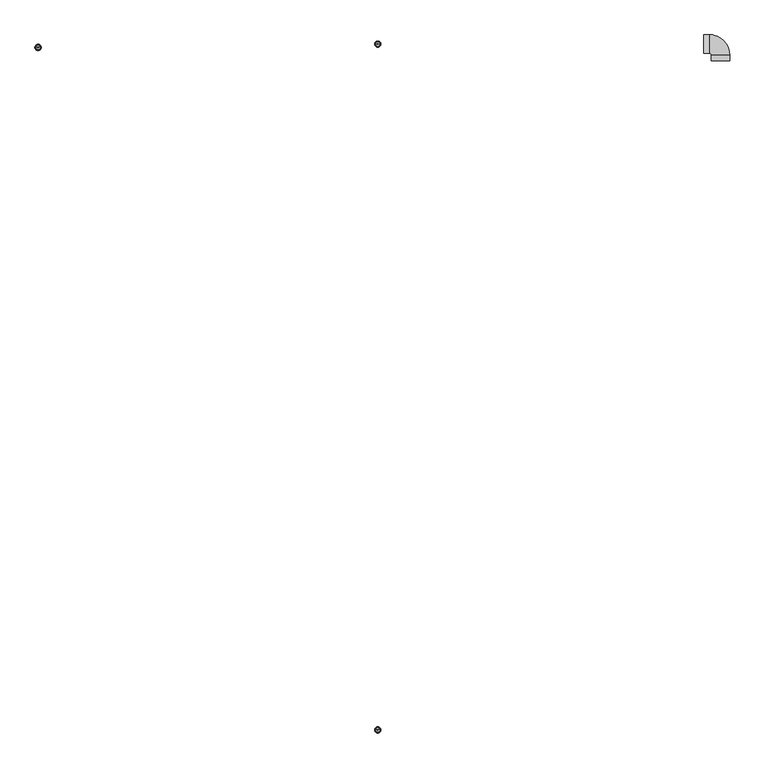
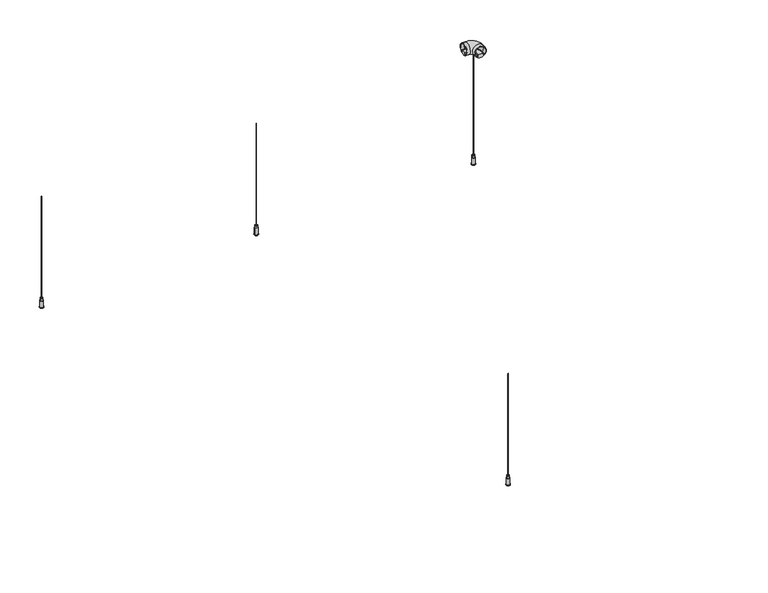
"""IFC4 building model written with IfcOpenShell, lengths in millimetres: light fixture geometry, ARTEMIDE-AoL-StandAlone-SquareRectangular_Suspended : StandALone_Suspended_SquareRectangular-1911x1911mm 14020lm 3000K."""

from ifc_helpers import new_model, si_unit, point, frame, frame_2d, origin, origin_with_axes, place, context, project, spatial, polyline, circle_curve, ellipse_curve, trimmed, segment, composite_curve, outline, extrude, source, transform, mapped, element, save
from ifc_brep_helpers import plane_surface, cylinder_surface, revolved_surface, advanced_brep


def light_fixture_0ddd1b5d(model_context):
    return source(origin(), model_context, "Body", "SolidModel", [
        advanced_brep(
        [(956.4, 1746.0, 41.0209548), (954.4, 1746.0, 41.0209548), (949.9097745, 1746.0, 41.0209548), (960.8902255, 1746.0, 41.0209548), (956.4, 1746.0, 0.0), (954.4, 1746.0, 0.0), (963.9523699, 1746.0, 0.0), (946.8476301, 1746.0, 0.0), (963.9523699, 1746.0, 2.0209548), (946.8476301, 1746.0, 2.0209548), (961.9523699, 1746.0, 2.0209548), (948.8476301, 1746.0, 2.0209548), (961.9523699, 1746.0, 30.9721976), (948.8476301, 1746.0, 30.9721976), (960.8902255, 1746.0, 30.9721976), (949.9097745, 1746.0, 30.9721976)],
        [
            (0, 1, circle_curve(frame((955.4, 1746.0, 41.0209548), z_axis=(0.0, 0.0, -1.0), x_axis=(-1.0, 0.0, 0.0)), 1.0)),
            (1, 2),
            (2, 3, circle_curve(frame((955.4, 1746.0, 41.0209548), z_axis=(0.0, 0.0, 1.0), x_axis=(-1.0, 0.0, 0.0)), 5.4902255)),
            (3, 0),
            (1, 0, circle_curve(frame((955.4, 1746.0, 41.0209548), z_axis=(0.0, 0.0, -1.0), x_axis=(-1.0, 0.0, 0.0)), 1.0)),
            (3, 2, circle_curve(frame((955.4, 1746.0, 41.0209548), z_axis=(0.0, 0.0, 1.0), x_axis=(-1.0, 0.0, 0.0)), 5.4902255)),
            (4, 5, circle_curve(frame((955.4, 1746.0, 0.0), z_axis=(0.0, 0.0, -1.0), x_axis=(-1.0, 0.0, 0.0)), 1.0)),
            (5, 1),
            (0, 4),
            (5, 4, circle_curve(frame((955.4, 1746.0, 0.0), z_axis=(0.0, 0.0, -1.0), x_axis=(-1.0, 0.0, 0.0)), 1.0)),
            (6, 7, circle_curve(frame((955.4, 1746.0, 0.0), z_axis=(0.0, 0.0, -1.0), x_axis=(-1.0, 0.0, 0.0)), 8.5523699)),
            (7, 5),
            (4, 6),
            (7, 6, circle_curve(frame((955.4, 1746.0, 0.0), z_axis=(0.0, 0.0, -1.0), x_axis=(-1.0, 0.0, 0.0)), 8.5523699)),
            (8, 9, circle_curve(frame((955.4, 1746.0, 2.0209548), z_axis=(0.0, 0.0, -1.0), x_axis=(-1.0, 0.0, 0.0)), 8.5523699)),
            (9, 7),
            (6, 8),
            (9, 8, circle_curve(frame((955.4, 1746.0, 2.0209548), z_axis=(0.0, 0.0, -1.0), x_axis=(-1.0, 0.0, 0.0)), 8.5523699)),
            (10, 11, circle_curve(frame((955.4, 1746.0, 2.0209548), z_axis=(0.0, 0.0, -1.0), x_axis=(-1.0, 0.0, 0.0)), 6.5523699)),
            (11, 9),
            (8, 10),
            (11, 10, circle_curve(frame((955.4, 1746.0, 2.0209548), z_axis=(0.0, 0.0, -1.0), x_axis=(-1.0, 0.0, 0.0)), 6.5523699)),
            (12, 13, circle_curve(frame((955.4, 1746.0, 30.9721976), z_axis=(0.0, 0.0, -1.0), x_axis=(-1.0, 0.0, 0.0)), 6.5523699)),
            (13, 11),
            (10, 12),
            (13, 12, circle_curve(frame((955.4, 1746.0, 30.9721976), z_axis=(0.0, 0.0, -1.0), x_axis=(-1.0, 0.0, 0.0)), 6.5523699)),
            (14, 15, circle_curve(frame((955.4, 1746.0, 30.9721976), z_axis=(0.0, 0.0, -1.0), x_axis=(-1.0, 0.0, 0.0)), 5.4902255)),
            (15, 13),
            (12, 14),
            (15, 14, circle_curve(frame((955.4, 1746.0, 30.9721976), z_axis=(0.0, 0.0, -1.0), x_axis=(-1.0, 0.0, 0.0)), 5.4902255)),
            (2, 15),
            (14, 3),
        ],
        [
            plane_surface(frame((955.4, 1746.0, 41.0209548), z_axis=(0.0, 0.0, 1.0), x_axis=(-1.0, 0.0, 0.0))),
            revolved_surface(polyline([(954.4, 1746.0, 41.02095480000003), (954.4, 1746.0, 0.0)]), (955.4, 1746.0, 391.16642), (0.0, 0.0, 1.0)),
            plane_surface(frame((955.4, 1746.0, 0.0), z_axis=(0.0, 0.0, -1.0), x_axis=(-1.0, 0.0, 0.0))),
            cylinder_surface(frame((955.4, 1746.0, 391.16642), z_axis=(0.0, 0.0, 1.0), x_axis=(-1.0, 0.0, 0.0)), 8.5523699),
            plane_surface(frame((955.4, 1746.0, 2.0209548), z_axis=(0.0, 0.0, 1.0), x_axis=(-1.0, 0.0, 0.0))),
            cylinder_surface(frame((955.4, 1746.0, 391.16642), z_axis=(0.0, 0.0, 1.0), x_axis=(-1.0, 0.0, 0.0)), 6.5523699),
            plane_surface(frame((955.4, 1746.0, 30.9721976), z_axis=(0.0, 0.0, 1.0), x_axis=(-1.0, 0.0, 0.0))),
            cylinder_surface(frame((955.4, 1746.0, 391.16642), z_axis=(0.0, 0.0, 1.0), x_axis=(-1.0, 0.0, 0.0)), 5.4902255),
        ],
        [
            (0, [[1, 2, 3, 4]]),
            (0, [[5, -4, 6, -2]]),
            (1, [[7, 8, -1, 9]]),
            (1, [[10, -9, -5, -8]]),
            (2, [[11, 12, -7, 13]]),
            (2, [[14, -13, -10, -12]]),
            (3, [[15, 16, -11, 17]]),
            (3, [[18, -17, -14, -16]]),
            (4, [[19, 20, -15, 21]]),
            (4, [[22, -21, -18, -20]]),
            (5, [[23, 24, -19, 25]]),
            (5, [[26, -25, -22, -24]]),
            (6, [[27, 28, -23, 29]]),
            (6, [[30, -29, -26, -28]]),
            (7, [[-3, 31, -27, 32]]),
            (7, [[-6, -32, -30, -31]]),
        ],
    ),
        extrude(outline(composite_curve([segment(trimmed(circle_curve(frame_2d((955.4, 1746.0)), 0.8), [point((954.6, 1746.0))], [point((956.2, 1746.0))], False, "CARTESIAN"), True, "CONTINUOUS"), segment(trimmed(circle_curve(frame_2d((955.4, 1746.0)), 0.8), [point((956.2, 1746.0))], [point((954.6, 1746.0))], False, "CARTESIAN"), True, "CONTINUOUS")], self_intersect=False)), origin_with_axes(), (0.0, 0.0, 1.0), 500.0),
        advanced_brep(
        [(956.4, -115.0, 41.0209548), (954.4, -115.0, 41.0209548), (949.9097745, -115.0, 41.0209548), (960.8902255, -115.0, 41.0209548), (956.4, -115.0, 0.0), (954.4, -115.0, 0.0), (963.9523699, -115.0, 0.0), (946.8476301, -115.0, 0.0), (963.9523699, -115.0, 2.0209548), (946.8476301, -115.0, 2.0209548), (961.9523699, -115.0, 2.0209548), (948.8476301, -115.0, 2.0209548), (961.9523699, -115.0, 30.9721976), (948.8476301, -115.0, 30.9721976), (960.8902255, -115.0, 30.9721976), (949.9097745, -115.0, 30.9721976)],
        [
            (0, 1, circle_curve(frame((955.4, -115.0, 41.0209548), z_axis=(0.0, 0.0, -1.0), x_axis=(-1.0, 0.0, 0.0)), 1.0)),
            (1, 2),
            (2, 3, circle_curve(frame((955.4, -115.0, 41.0209548), z_axis=(0.0, 0.0, 1.0), x_axis=(-1.0, 0.0, 0.0)), 5.4902255)),
            (3, 0),
            (1, 0, circle_curve(frame((955.4, -115.0, 41.0209548), z_axis=(0.0, 0.0, -1.0), x_axis=(-1.0, 0.0, 0.0)), 1.0)),
            (3, 2, circle_curve(frame((955.4, -115.0, 41.0209548), z_axis=(0.0, 0.0, 1.0), x_axis=(-1.0, 0.0, 0.0)), 5.4902255)),
            (4, 5, circle_curve(frame((955.4, -115.0, 0.0), z_axis=(0.0, 0.0, -1.0), x_axis=(-1.0, 0.0, 0.0)), 1.0)),
            (5, 1),
            (0, 4),
            (5, 4, circle_curve(frame((955.4, -115.0, 0.0), z_axis=(0.0, 0.0, -1.0), x_axis=(-1.0, 0.0, 0.0)), 1.0)),
            (6, 7, circle_curve(frame((955.4, -115.0, 0.0), z_axis=(0.0, 0.0, -1.0), x_axis=(-1.0, 0.0, 0.0)), 8.5523699)),
            (7, 5),
            (4, 6),
            (7, 6, circle_curve(frame((955.4, -115.0, 0.0), z_axis=(0.0, 0.0, -1.0), x_axis=(-1.0, 0.0, 0.0)), 8.5523699)),
            (8, 9, circle_curve(frame((955.4, -115.0, 2.0209548), z_axis=(0.0, 0.0, -1.0), x_axis=(-1.0, 0.0, 0.0)), 8.5523699)),
            (9, 7),
            (6, 8),
            (9, 8, circle_curve(frame((955.4, -115.0, 2.0209548), z_axis=(0.0, 0.0, -1.0), x_axis=(-1.0, 0.0, 0.0)), 8.5523699)),
            (10, 11, circle_curve(frame((955.4, -115.0, 2.0209548), z_axis=(0.0, 0.0, -1.0), x_axis=(-1.0, 0.0, 0.0)), 6.5523699)),
            (11, 9),
            (8, 10),
            (11, 10, circle_curve(frame((955.4, -115.0, 2.0209548), z_axis=(0.0, 0.0, -1.0), x_axis=(-1.0, 0.0, 0.0)), 6.5523699)),
            (12, 13, circle_curve(frame((955.4, -115.0, 30.9721976), z_axis=(0.0, 0.0, -1.0), x_axis=(-1.0, 0.0, 0.0)), 6.5523699)),
            (13, 11),
            (10, 12),
            (13, 12, circle_curve(frame((955.4, -115.0, 30.9721976), z_axis=(0.0, 0.0, -1.0), x_axis=(-1.0, 0.0, 0.0)), 6.5523699)),
            (14, 15, circle_curve(frame((955.4, -115.0, 30.9721976), z_axis=(0.0, 0.0, -1.0), x_axis=(-1.0, 0.0, 0.0)), 5.4902255)),
            (15, 13),
            (12, 14),
            (15, 14, circle_curve(frame((955.4, -115.0, 30.9721976), z_axis=(0.0, 0.0, -1.0), x_axis=(-1.0, 0.0, 0.0)), 5.4902255)),
            (2, 15),
            (14, 3),
        ],
        [
            plane_surface(frame((955.4, -115.0, 41.0209548), z_axis=(0.0, 0.0, 1.0), x_axis=(-1.0, 0.0, 0.0))),
            revolved_surface(polyline([(954.4, -115.0, 41.02095480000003), (954.4, -115.0, 0.0)]), (955.4, -115.0, 391.16642), (0.0, 0.0, 1.0)),
            plane_surface(frame((955.4, -115.0, 0.0), z_axis=(0.0, 0.0, -1.0), x_axis=(-1.0, 0.0, 0.0))),
            cylinder_surface(frame((955.4, -115.0, 391.16642), z_axis=(0.0, 0.0, 1.0), x_axis=(-1.0, 0.0, 0.0)), 8.5523699),
            plane_surface(frame((955.4, -115.0, 2.0209548), z_axis=(0.0, 0.0, 1.0), x_axis=(-1.0, 0.0, 0.0))),
            cylinder_surface(frame((955.4, -115.0, 391.16642), z_axis=(0.0, 0.0, 1.0), x_axis=(-1.0, 0.0, 0.0)), 6.5523699),
            plane_surface(frame((955.4, -115.0, 30.9721976), z_axis=(0.0, 0.0, 1.0), x_axis=(-1.0, 0.0, 0.0))),
            cylinder_surface(frame((955.4, -115.0, 391.16642), z_axis=(0.0, 0.0, 1.0), x_axis=(-1.0, 0.0, 0.0)), 5.4902255),
        ],
        [
            (0, [[1, 2, 3, 4]]),
            (0, [[5, -4, 6, -2]]),
            (1, [[7, 8, -1, 9]]),
            (1, [[10, -9, -5, -8]]),
            (2, [[11, 12, -7, 13]]),
            (2, [[14, -13, -10, -12]]),
            (3, [[15, 16, -11, 17]]),
            (3, [[18, -17, -14, -16]]),
            (4, [[19, 20, -15, 21]]),
            (4, [[22, -21, -18, -20]]),
            (5, [[23, 24, -19, 25]]),
            (5, [[26, -25, -22, -24]]),
            (6, [[27, 28, -23, 29]]),
            (6, [[30, -29, -26, -28]]),
            (7, [[-3, 31, -27, 32]]),
            (7, [[-6, -32, -30, -31]]),
        ],
    ),
        extrude(outline(composite_curve([segment(trimmed(circle_curve(frame_2d((955.4, -115.0)), 0.8), [point((954.6, -115.0))], [point((956.2, -115.0))], False, "CARTESIAN"), True, "CONTINUOUS"), segment(trimmed(circle_curve(frame_2d((955.4, -115.0)), 0.8), [point((956.2, -115.0))], [point((954.6, -115.0))], False, "CARTESIAN"), True, "CONTINUOUS")], self_intersect=False)), origin_with_axes(), (0.0, 0.0, 1.0), 500.0),
        advanced_brep(
        [(34.8, 1737.0, 41.0209548), (32.8, 1737.0, 41.0209548), (28.3097745, 1737.0, 41.0209548), (39.2902255, 1737.0, 41.0209548), (34.8, 1737.0, 0.0), (32.8, 1737.0, 0.0), (42.3523699, 1737.0, 0.0), (25.2476301, 1737.0, 0.0), (42.3523699, 1737.0, 2.0209548), (25.2476301, 1737.0, 2.0209548), (40.3523699, 1737.0, 2.0209548), (27.2476301, 1737.0, 2.0209548), (40.3523699, 1737.0, 30.9721976), (27.2476301, 1737.0, 30.9721976), (39.2902255, 1737.0, 30.9721976), (28.3097745, 1737.0, 30.9721976)],
        [
            (0, 1, circle_curve(frame((33.8, 1737.0, 41.0209548), z_axis=(0.0, 0.0, -1.0), x_axis=(-1.0, 0.0, 0.0)), 1.0)),
            (1, 2),
            (2, 3, circle_curve(frame((33.8, 1737.0, 41.0209548), z_axis=(0.0, 0.0, 1.0), x_axis=(-1.0, 0.0, 0.0)), 5.4902255)),
            (3, 0),
            (1, 0, circle_curve(frame((33.8, 1737.0, 41.0209548), z_axis=(0.0, 0.0, -1.0), x_axis=(-1.0, 0.0, 0.0)), 1.0)),
            (3, 2, circle_curve(frame((33.8, 1737.0, 41.0209548), z_axis=(0.0, 0.0, 1.0), x_axis=(-1.0, 0.0, 0.0)), 5.4902255)),
            (4, 5, circle_curve(frame((33.8, 1737.0, 0.0), z_axis=(0.0, 0.0, -1.0), x_axis=(-1.0, 0.0, 0.0)), 1.0)),
            (5, 1),
            (0, 4),
            (5, 4, circle_curve(frame((33.8, 1737.0, 0.0), z_axis=(0.0, 0.0, -1.0), x_axis=(-1.0, 0.0, 0.0)), 1.0)),
            (6, 7, circle_curve(frame((33.8, 1737.0, 0.0), z_axis=(0.0, 0.0, -1.0), x_axis=(-1.0, 0.0, 0.0)), 8.5523699)),
            (7, 5),
            (4, 6),
            (7, 6, circle_curve(frame((33.8, 1737.0, 0.0), z_axis=(0.0, 0.0, -1.0), x_axis=(-1.0, 0.0, 0.0)), 8.5523699)),
            (8, 9, circle_curve(frame((33.8, 1737.0, 2.0209548), z_axis=(0.0, 0.0, -1.0), x_axis=(-1.0, 0.0, 0.0)), 8.5523699)),
            (9, 7),
            (6, 8),
            (9, 8, circle_curve(frame((33.8, 1737.0, 2.0209548), z_axis=(0.0, 0.0, -1.0), x_axis=(-1.0, 0.0, 0.0)), 8.5523699)),
            (10, 11, circle_curve(frame((33.8, 1737.0, 2.0209548), z_axis=(0.0, 0.0, -1.0), x_axis=(-1.0, 0.0, 0.0)), 6.5523699)),
            (11, 9),
            (8, 10),
            (11, 10, circle_curve(frame((33.8, 1737.0, 2.0209548), z_axis=(0.0, 0.0, -1.0), x_axis=(-1.0, 0.0, 0.0)), 6.5523699)),
            (12, 13, circle_curve(frame((33.8, 1737.0, 30.9721976), z_axis=(0.0, 0.0, -1.0), x_axis=(-1.0, 0.0, 0.0)), 6.5523699)),
            (13, 11),
            (10, 12),
            (13, 12, circle_curve(frame((33.8, 1737.0, 30.9721976), z_axis=(0.0, 0.0, -1.0), x_axis=(-1.0, 0.0, 0.0)), 6.5523699)),
            (14, 15, circle_curve(frame((33.8, 1737.0, 30.9721976), z_axis=(0.0, 0.0, -1.0), x_axis=(-1.0, 0.0, 0.0)), 5.4902255)),
            (15, 13),
            (12, 14),
            (15, 14, circle_curve(frame((33.8, 1737.0, 30.9721976), z_axis=(0.0, 0.0, -1.0), x_axis=(-1.0, 0.0, 0.0)), 5.4902255)),
            (2, 15),
            (14, 3),
        ],
        [
            plane_surface(frame((33.8, 1737.0, 41.0209548), z_axis=(0.0, 0.0, 1.0), x_axis=(-1.0, 0.0, 0.0))),
            revolved_surface(polyline([(32.8, 1737.0, 41.02095480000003), (32.8, 1737.0, 0.0)]), (33.8, 1737.0, 391.16642), (0.0, 0.0, 1.0)),
            plane_surface(frame((33.8, 1737.0, 0.0), z_axis=(0.0, 0.0, -1.0), x_axis=(-1.0, 0.0, 0.0))),
            cylinder_surface(frame((33.8, 1737.0, 391.16642), z_axis=(0.0, 0.0, 1.0), x_axis=(-1.0, 0.0, 0.0)), 8.5523699),
            plane_surface(frame((33.8, 1737.0, 2.0209548), z_axis=(0.0, 0.0, 1.0), x_axis=(-1.0, 0.0, 0.0))),
            cylinder_surface(frame((33.8, 1737.0, 391.16642), z_axis=(0.0, 0.0, 1.0), x_axis=(-1.0, 0.0, 0.0)), 6.5523699),
            plane_surface(frame((33.8, 1737.0, 30.9721976), z_axis=(0.0, 0.0, 1.0), x_axis=(-1.0, 0.0, 0.0))),
            cylinder_surface(frame((33.8, 1737.0, 391.16642), z_axis=(0.0, 0.0, 1.0), x_axis=(-1.0, 0.0, 0.0)), 5.4902255),
        ],
        [
            (0, [[1, 2, 3, 4]]),
            (0, [[5, -4, 6, -2]]),
            (1, [[7, 8, -1, 9]]),
            (1, [[10, -9, -5, -8]]),
            (2, [[11, 12, -7, 13]]),
            (2, [[14, -13, -10, -12]]),
            (3, [[15, 16, -11, 17]]),
            (3, [[18, -17, -14, -16]]),
            (4, [[19, 20, -15, 21]]),
            (4, [[22, -21, -18, -20]]),
            (5, [[23, 24, -19, 25]]),
            (5, [[26, -25, -22, -24]]),
            (6, [[27, 28, -23, 29]]),
            (6, [[30, -29, -26, -28]]),
            (7, [[-3, 31, -27, 32]]),
            (7, [[-6, -32, -30, -31]]),
        ],
    ),
        extrude(outline(composite_curve([segment(trimmed(circle_curve(frame_2d((33.8, 1737.0)), 0.8), [point((33.0, 1737.0))], [point((34.6, 1737.0))], False, "CARTESIAN"), True, "CONTINUOUS"), segment(trimmed(circle_curve(frame_2d((33.8, 1737.0)), 0.8), [point((34.6, 1737.0))], [point((33.0, 1737.0))], False, "CARTESIAN"), True, "CONTINUOUS")], self_intersect=False)), origin_with_axes(), (0.0, 0.0, 1.0), 500.0),
        advanced_brep(
        [(1878.0, 1737.0, 41.0209548), (1876.0, 1737.0, 41.0209548), (1871.5097745, 1737.0, 41.0209548), (1882.4902255, 1737.0, 41.0209548), (1878.0, 1737.0, 0.0), (1876.0, 1737.0, 0.0), (1885.5523699, 1737.0, 0.0), (1868.4476301, 1737.0, 0.0), (1885.5523699, 1737.0, 2.0209548), (1868.4476301, 1737.0, 2.0209548), (1883.5523699, 1737.0, 2.0209548), (1870.4476301, 1737.0, 2.0209548), (1883.5523699, 1737.0, 30.9721976), (1870.4476301, 1737.0, 30.9721976), (1882.4902255, 1737.0, 30.9721976), (1871.5097745, 1737.0, 30.9721976)],
        [
            (0, 1, circle_curve(frame((1877.0, 1737.0, 41.0209548), z_axis=(0.0, 0.0, -1.0), x_axis=(-1.0, 0.0, 0.0)), 1.0)),
            (1, 2),
            (2, 3, circle_curve(frame((1877.0, 1737.0, 41.0209548), z_axis=(0.0, 0.0, 1.0), x_axis=(-1.0, 0.0, 0.0)), 5.4902255)),
            (3, 0),
            (1, 0, circle_curve(frame((1877.0, 1737.0, 41.0209548), z_axis=(0.0, 0.0, -1.0), x_axis=(-1.0, 0.0, 0.0)), 1.0)),
            (3, 2, circle_curve(frame((1877.0, 1737.0, 41.0209548), z_axis=(0.0, 0.0, 1.0), x_axis=(-1.0, 0.0, 0.0)), 5.4902255)),
            (4, 5, circle_curve(frame((1877.0, 1737.0, 0.0), z_axis=(0.0, 0.0, -1.0), x_axis=(-1.0, 0.0, 0.0)), 1.0)),
            (5, 1),
            (0, 4),
            (5, 4, circle_curve(frame((1877.0, 1737.0, 0.0), z_axis=(0.0, 0.0, -1.0), x_axis=(-1.0, 0.0, 0.0)), 1.0)),
            (6, 7, circle_curve(frame((1877.0, 1737.0, 0.0), z_axis=(0.0, 0.0, -1.0), x_axis=(-1.0, 0.0, 0.0)), 8.5523699)),
            (7, 5),
            (4, 6),
            (7, 6, circle_curve(frame((1877.0, 1737.0, 0.0), z_axis=(0.0, 0.0, -1.0), x_axis=(-1.0, 0.0, 0.0)), 8.5523699)),
            (8, 9, circle_curve(frame((1877.0, 1737.0, 2.0209548), z_axis=(0.0, 0.0, -1.0), x_axis=(-1.0, 0.0, 0.0)), 8.5523699)),
            (9, 7),
            (6, 8),
            (9, 8, circle_curve(frame((1877.0, 1737.0, 2.0209548), z_axis=(0.0, 0.0, -1.0), x_axis=(-1.0, 0.0, 0.0)), 8.5523699)),
            (10, 11, circle_curve(frame((1877.0, 1737.0, 2.0209548), z_axis=(0.0, 0.0, -1.0), x_axis=(-1.0, 0.0, 0.0)), 6.5523699)),
            (11, 9),
            (8, 10),
            (11, 10, circle_curve(frame((1877.0, 1737.0, 2.0209548), z_axis=(0.0, 0.0, -1.0), x_axis=(-1.0, 0.0, 0.0)), 6.5523699)),
            (12, 13, circle_curve(frame((1877.0, 1737.0, 30.9721976), z_axis=(0.0, 0.0, -1.0), x_axis=(-1.0, 0.0, 0.0)), 6.5523699)),
            (13, 11),
            (10, 12),
            (13, 12, circle_curve(frame((1877.0, 1737.0, 30.9721976), z_axis=(0.0, 0.0, -1.0), x_axis=(-1.0, 0.0, 0.0)), 6.5523699)),
            (14, 15, circle_curve(frame((1877.0, 1737.0, 30.9721976), z_axis=(0.0, 0.0, -1.0), x_axis=(-1.0, 0.0, 0.0)), 5.4902255)),
            (15, 13),
            (12, 14),
            (15, 14, circle_curve(frame((1877.0, 1737.0, 30.9721976), z_axis=(0.0, 0.0, -1.0), x_axis=(-1.0, 0.0, 0.0)), 5.4902255)),
            (2, 15),
            (14, 3),
        ],
        [
            plane_surface(frame((1877.0, 1737.0, 41.0209548), z_axis=(0.0, 0.0, 1.0), x_axis=(-1.0, 0.0, 0.0))),
            revolved_surface(polyline([(1876.0, 1737.0, 41.02095480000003), (1876.0, 1737.0, 0.0)]), (1877.0, 1737.0, 391.16642), (0.0, 0.0, 1.0)),
            plane_surface(frame((1877.0, 1737.0, 0.0), z_axis=(0.0, 0.0, -1.0), x_axis=(-1.0, 0.0, 0.0))),
            cylinder_surface(frame((1877.0, 1737.0, 391.16642), z_axis=(0.0, 0.0, 1.0), x_axis=(-1.0, 0.0, 0.0)), 8.5523699),
            plane_surface(frame((1877.0, 1737.0, 2.0209548), z_axis=(0.0, 0.0, 1.0), x_axis=(-1.0, 0.0, 0.0))),
            cylinder_surface(frame((1877.0, 1737.0, 391.16642), z_axis=(0.0, 0.0, 1.0), x_axis=(-1.0, 0.0, 0.0)), 6.5523699),
            plane_surface(frame((1877.0, 1737.0, 30.9721976), z_axis=(0.0, 0.0, 1.0), x_axis=(-1.0, 0.0, 0.0))),
            cylinder_surface(frame((1877.0, 1737.0, 391.16642), z_axis=(0.0, 0.0, 1.0), x_axis=(-1.0, 0.0, 0.0)), 5.4902255),
        ],
        [
            (0, [[1, 2, 3, 4]]),
            (0, [[5, -4, 6, -2]]),
            (1, [[7, 8, -1, 9]]),
            (1, [[10, -9, -5, -8]]),
            (2, [[11, 12, -7, 13]]),
            (2, [[14, -13, -10, -12]]),
            (3, [[15, 16, -11, 17]]),
            (3, [[18, -17, -14, -16]]),
            (4, [[19, 20, -15, 21]]),
            (4, [[22, -21, -18, -20]]),
            (5, [[23, 24, -19, 25]]),
            (5, [[26, -25, -22, -24]]),
            (6, [[27, 28, -23, 29]]),
            (6, [[30, -29, -26, -28]]),
            (7, [[-3, 31, -27, 32]]),
            (7, [[-6, -32, -30, -31]]),
        ],
    ),
        extrude(outline(composite_curve([segment(trimmed(circle_curve(frame_2d((1877.0, 1737.0)), 0.8), [point((1876.2, 1737.0))], [point((1877.8, 1737.0))], False, "CARTESIAN"), True, "CONTINUOUS"), segment(trimmed(circle_curve(frame_2d((1877.0, 1737.0)), 0.8), [point((1877.8, 1737.0))], [point((1876.2, 1737.0))], False, "CARTESIAN"), True, "CONTINUOUS")], self_intersect=False)), origin_with_axes(), (0.0, 0.0, 1.0), 500.0),
        advanced_brep(
        [(1897.7532014, 1700.5, 502.9333396), (1897.7532014, 1700.5, 507.259212), (1901.3072884, 1700.5, 507.259212), (1901.3072884, 1700.5, 508.785971), (1895.5094589, 1700.5, 508.785971), (1895.5094589, 1700.5, 514.4273482), (1876.4969439, 1700.5, 514.4273482), (1876.4969439, 1700.5, 508.785971), (1870.6991144, 1700.5, 508.785971), (1870.6991144, 1700.5, 507.259212), (1874.2532014, 1700.5, 507.259212), (1874.2532014, 1700.5, 502.9333396), (1840.5032014, 1757.75, 502.9333396), (1840.5032014, 1734.25, 502.9333396), (1840.5032014, 1734.25, 507.259212), (1840.5032014, 1730.695913, 507.259212), (1840.5032014, 1730.695913, 508.785971), (1840.5032014, 1736.4937425, 508.785971), (1840.5032014, 1736.4937425, 514.4273482), (1840.5032014, 1755.5062575, 514.4273482), (1840.5032014, 1755.5062575, 508.785971), (1840.5032014, 1761.304087, 508.785971), (1840.5032014, 1761.304087, 507.259212), (1840.5032014, 1757.75, 507.259212), (1874.2532014, 1716.0, 502.9333396), (1897.7532014, 1716.0, 502.9333396), (1874.2532014, 1716.0, 507.259212), (1870.6991144, 1716.0, 507.259212), (1856.0032014, 1730.695913, 507.259212), (1856.0032014, 1734.25, 507.259212), (1870.6991144, 1716.0, 508.785971), (1876.4969439, 1716.0, 508.785971), (1856.0032014, 1736.4937425, 508.785971), (1856.0032014, 1730.695913, 508.785971), (1876.4969439, 1716.0, 514.4273482), (1895.5094589, 1716.0, 514.4273482), (1856.0032014, 1755.5062575, 514.4273482), (1856.0032014, 1736.4937425, 514.4273482), (1895.5094589, 1716.0, 508.785971), (1901.3072884, 1716.0, 508.785971), (1856.0032014, 1761.304087, 508.785971), (1856.0032014, 1755.5062575, 508.785971), (1901.3072884, 1716.0, 507.259212), (1897.7532014, 1716.0, 507.259212), (1856.0032014, 1757.75, 507.259212), (1856.0032014, 1761.304087, 507.259212), (1856.0032014, 1757.75, 502.9333396), (1856.0032014, 1734.25, 502.9333396)],
        [
            (0, 1),
            (1, 2),
            (2, 3),
            (3, 4),
            (4, 5),
            (5, 6),
            (6, 7),
            (7, 8),
            (8, 9),
            (9, 10),
            (10, 11),
            (11, 0, circle_curve(frame((1886.0032014, 1700.5, 525.0), z_axis=(0.0, -1.0, 0.0), x_axis=(-1.0, 0.0, 0.0)), 25.0)),
            (12, 13, circle_curve(frame((1840.5032014, 1746.0, 525.0), z_axis=(-1.0, 0.0, 0.0), x_axis=(0.0, -1.0, 0.0)), 25.0)),
            (13, 14),
            (14, 15),
            (15, 16),
            (16, 17),
            (17, 18),
            (18, 19),
            (19, 20),
            (20, 21),
            (21, 22),
            (22, 23),
            (23, 12),
            (11, 24),
            (24, 25, circle_curve(frame((1886.0032014, 1716.0, 525.0), z_axis=(0.0, -1.0, 0.0), x_axis=(-1.0, 0.0, 0.0)), 25.0)),
            (25, 0),
            (10, 26),
            (26, 24),
            (9, 27),
            (27, 28, circle_curve(frame((1856.0032014, 1716.0, 507.259212), z_axis=(0.0, 0.0, 1.0), x_axis=(1.0, 0.0, 0.0)), 14.695913)),
            (28, 15),
            (14, 29),
            (29, 26, circle_curve(frame((1856.0032014, 1716.0, 507.259212), z_axis=(0.0, 0.0, -1.0), x_axis=(1.0, 0.0, 0.0)), 18.25)),
            (8, 30),
            (30, 27),
            (7, 31),
            (31, 32, circle_curve(frame((1856.0032014, 1716.0, 508.785971), z_axis=(0.0, 0.0, 1.0), x_axis=(1.0, 0.0, 0.0)), 20.4937425)),
            (32, 17),
            (16, 33),
            (33, 30, circle_curve(frame((1856.0032014, 1716.0, 508.785971), z_axis=(0.0, 0.0, -1.0), x_axis=(1.0, 0.0, 0.0)), 14.695913)),
            (6, 34),
            (34, 31),
            (5, 35),
            (35, 36, circle_curve(frame((1856.0032014, 1716.0, 514.4273482), z_axis=(0.0, 0.0, 1.0), x_axis=(1.0, 0.0, 0.0)), 39.5062575)),
            (36, 19),
            (18, 37),
            (37, 34, circle_curve(frame((1856.0032014, 1716.0, 514.4273482), z_axis=(0.0, 0.0, -1.0), x_axis=(1.0, 0.0, 0.0)), 20.4937425)),
            (4, 38),
            (38, 35),
            (3, 39),
            (39, 40, circle_curve(frame((1856.0032014, 1716.0, 508.785971), z_axis=(0.0, 0.0, 1.0), x_axis=(1.0, 0.0, 0.0)), 45.304087)),
            (40, 21),
            (20, 41),
            (41, 38, circle_curve(frame((1856.0032014, 1716.0, 508.785971), z_axis=(0.0, 0.0, -1.0), x_axis=(1.0, 0.0, 0.0)), 39.5062575)),
            (2, 42),
            (42, 39),
            (1, 43),
            (43, 44, circle_curve(frame((1856.0032014, 1716.0, 507.259212), z_axis=(0.0, 0.0, 1.0), x_axis=(1.0, 0.0, 0.0)), 41.75)),
            (44, 23),
            (22, 45),
            (45, 42, circle_curve(frame((1856.0032014, 1716.0, 507.259212), z_axis=(0.0, 0.0, -1.0), x_axis=(1.0, 0.0, 0.0)), 45.304087)),
            (25, 43),
            (46, 25, circle_curve(frame((1856.0032014, 1716.0, 502.9333396), z_axis=(0.0, 0.0, -1.0), x_axis=(1.0, 0.0, 0.0)), 41.75)),
            (24, 47, circle_curve(frame((1856.0032014, 1716.0, 502.9333396), z_axis=(0.0, 0.0, 1.0), x_axis=(1.0, 0.0, 0.0)), 18.25)),
            (47, 46, circle_curve(frame((1856.0032014, 1746.0, 525.0), z_axis=(1.0, 0.0, 0.0), x_axis=(0.0, -1.0, 0.0)), 25.0)),
            (29, 47),
            (33, 28),
            (37, 32),
            (41, 36),
            (45, 40),
            (46, 44),
            (47, 13),
            (12, 46),
        ],
        [
            plane_surface(frame((1886.0032014, 1700.5, 500.0), z_axis=(0.0, -1.0, 0.0), x_axis=(0.0, 0.0, 1.0))),
            plane_surface(frame((1840.5032014, 1746.0, 500.0), z_axis=(-1.0, 0.0, 0.0), x_axis=(0.0, 0.0, 1.0))),
            cylinder_surface(frame((1886.0032014, 1700.5, 525.0), z_axis=(0.0, -1.0, 0.0), x_axis=(-1.0, 0.0, 0.0)), 25.0),
            plane_surface(frame((1874.2532014, 1700.5, 507.259212), z_axis=(-1.0, 0.0, 0.0), x_axis=(0.0, 1.0, 0.0))),
            plane_surface(frame((1870.6991144, 1700.5, 507.259212), z_axis=(0.0, 0.0, -1.0), x_axis=(0.0, 1.0, 0.0))),
            plane_surface(frame((1870.6991144, 1700.5, 508.785971), z_axis=(-1.0, 0.0, 0.0), x_axis=(0.0, 1.0, 0.0))),
            plane_surface(frame((1876.4969439, 1700.5, 508.785971), z_axis=(0.0, 0.0, 1.0), x_axis=(0.0, 1.0, 0.0))),
            plane_surface(frame((1876.4969439, 1700.5, 514.4273482), z_axis=(-1.0, 0.0, 0.0), x_axis=(0.0, 1.0, 0.0))),
            plane_surface(frame((1895.5094589, 1700.5, 514.4273482), z_axis=(0.0, 0.0, 1.0), x_axis=(0.0, 1.0, 0.0))),
            plane_surface(frame((1895.5094589, 1700.5, 508.785971), z_axis=(1.0, 0.0, 0.0), x_axis=(0.0, 1.0, 0.0))),
            plane_surface(frame((1901.3072884, 1700.5, 508.785971), z_axis=(0.0, 0.0, 1.0), x_axis=(0.0, 1.0, 0.0))),
            plane_surface(frame((1901.3072884, 1700.5, 507.259212), z_axis=(1.0, 0.0, 0.0), x_axis=(0.0, 1.0, 0.0))),
            plane_surface(frame((1897.7532014, 1700.5, 507.259212), z_axis=(0.0, 0.0, -1.0), x_axis=(0.0, 1.0, 0.0))),
            plane_surface(frame((1897.7532014, 1700.5, 502.9333396), z_axis=(1.0, 0.0, 0.0), x_axis=(0.0, 1.0, 0.0))),
            revolved_surface(trimmed(ellipse_curve(frame((1886.0032014, 1716.0, 525.0), z_axis=(0.0, -1.0, 0.0), x_axis=(-1.0, 0.0, 0.0)), 25.0, 25.0), [point((1874.2532014, 1716.0, 502.9333396))], [point((1897.7532014, 1716.0, 502.9333396))], True, "CARTESIAN"), (1856.0032014, 1716.0, 500.0), (0.0, 0.0, 1.0)),
            revolved_surface(polyline([(1874.2532014, 1716.0, 507.259212), (1874.2532014, 1716.0, 502.9333396)]), (1856.0032014, 1716.0, 500.0), (0.0, 0.0, 1.0)),
            revolved_surface(polyline([(1870.6991144, 1716.0, 508.785971), (1870.6991144, 1716.0, 507.259212)]), (1856.0032014, 1716.0, 500.0), (0.0, 0.0, 1.0)),
            revolved_surface(polyline([(1876.4969439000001, 1716.0, 514.4273482), (1876.4969439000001, 1716.0, 508.785971)]), (1856.0032014, 1716.0, 500.0), (0.0, 0.0, 1.0)),
            cylinder_surface(frame((1856.0032014, 1716.0, 500.0), z_axis=(0.0, 0.0, 1.0), x_axis=(1.0, 0.0, 0.0)), 39.5062575),
            cylinder_surface(frame((1856.0032014, 1716.0, 500.0), z_axis=(0.0, 0.0, 1.0), x_axis=(1.0, 0.0, 0.0)), 45.304087),
            cylinder_surface(frame((1856.0032014, 1716.0, 500.0), z_axis=(0.0, 0.0, 1.0), x_axis=(1.0, 0.0, 0.0)), 41.75),
            cylinder_surface(frame((1856.0032014, 1746.0, 525.0), z_axis=(1.0, 0.0, 0.0), x_axis=(0.0, -1.0, 0.0)), 25.0),
            plane_surface(frame((1856.0032014, 1734.25, 507.259212), z_axis=(0.0, -1.0, 0.0), x_axis=(-1.0, 0.0, 0.0))),
            plane_surface(frame((1856.0032014, 1730.695913, 508.785971), z_axis=(0.0, -1.0, 0.0), x_axis=(-1.0, 0.0, 0.0))),
            plane_surface(frame((1856.0032014, 1736.4937425, 514.4273482), z_axis=(0.0, -1.0, 0.0), x_axis=(-1.0, 0.0, 0.0))),
            plane_surface(frame((1856.0032014, 1755.5062575, 508.785971), z_axis=(0.0, 1.0, 0.0), x_axis=(-1.0, 0.0, 0.0))),
            plane_surface(frame((1856.0032014, 1761.304087, 507.259212), z_axis=(0.0, 1.0, 0.0), x_axis=(-1.0, 0.0, 0.0))),
            plane_surface(frame((1856.0032014, 1757.75, 502.9333396), z_axis=(0.0, 1.0, 0.0), x_axis=(-1.0, 0.0, 0.0))),
        ],
        [
            (0, [[1, 2, 3, 4, 5, 6, 7, 8, 9, 10, 11, 12]]),
            (1, [[13, 14, 15, 16, 17, 18, 19, 20, 21, 22, 23, 24]]),
            (2, [[-12, 25, 26, 27]]),
            (3, [[-11, 28, 29, -25]]),
            (4, [[-10, 30, 31, 32, -15, 33, 34, -28]]),
            (5, [[-9, 35, 36, -30]]),
            (6, [[-8, 37, 38, 39, -17, 40, 41, -35]]),
            (7, [[-7, 42, 43, -37]]),
            (8, [[-6, 44, 45, 46, -19, 47, 48, -42]]),
            (9, [[-5, 49, 50, -44]]),
            (10, [[-4, 51, 52, 53, -21, 54, 55, -49]]),
            (11, [[-3, 56, 57, -51]]),
            (12, [[-2, 58, 59, 60, -23, 61, 62, -56]]),
            (13, [[-1, -27, 63, -58]]),
            (14, [[64, -26, 65, 66]]),
            (15, [[-65, -29, -34, 67]]),
            (16, [[-31, -36, -41, 68]]),
            (17, [[-38, -43, -48, 69]]),
            (18, [[-45, -50, -55, 70]]),
            (19, [[-52, -57, -62, 71]]),
            (20, [[-59, -63, -64, 72]]),
            (21, [[-66, 73, -13, 74]]),
            (22, [[-67, -33, -14, -73]]),
            (23, [[-68, -40, -16, -32]]),
            (24, [[-69, -47, -18, -39]]),
            (25, [[-70, -54, -20, -46]]),
            (26, [[-71, -61, -22, -53]]),
            (27, [[-72, -74, -24, -60]]),
        ],
    ),
        advanced_brep(
        [(1874.2532014, 1700.5, 502.9333396), (1874.2532014, 1700.5, 507.259212), (1872.3354474, 1700.5, 507.259212), (1872.3354474, 1700.5, 505.8288843), (1870.3854474, 1700.5, 507.2440748), (1870.3854474, 1700.5, 509.244074), (1873.3354474, 1700.5, 509.244074), (1873.3354474, 1700.5, 510.744074), (1868.725222, 1700.5, 510.744074), (1903.2811808, 1700.5, 510.744074), (1898.6709554, 1700.5, 510.744074), (1898.6709554, 1700.5, 509.244074), (1901.6209554, 1700.5, 509.244074), (1901.6209554, 1700.5, 507.2440748), (1899.6709554, 1700.5, 505.8288843), (1899.6709554, 1700.5, 507.259212), (1897.7532014, 1700.5, 507.259212), (1897.7532014, 1700.5, 502.9333396), (1840.5032014, 1734.25, 502.9333396), (1840.5032014, 1757.75, 502.9333396), (1840.5032014, 1757.75, 507.259212), (1840.5032014, 1759.667754, 507.259212), (1840.5032014, 1759.667754, 505.8288843), (1840.5032014, 1761.617754, 507.2440748), (1840.5032014, 1761.617754, 509.244074), (1840.5032014, 1758.667754, 509.244074), (1840.5032014, 1758.667754, 510.744074), (1840.5032014, 1763.2779794, 510.744074), (1840.5032014, 1728.7220206, 510.744074), (1840.5032014, 1733.332246, 510.744074), (1840.5032014, 1733.332246, 509.244074), (1840.5032014, 1730.382246, 509.244074), (1840.5032014, 1730.382246, 507.2440748), (1840.5032014, 1732.332246, 505.8288843), (1840.5032014, 1732.332246, 507.259212), (1840.5032014, 1734.25, 507.259212), (1897.7532014, 1716.0, 502.9333396), (1874.2532014, 1716.0, 502.9333396), (1897.7532014, 1716.0, 507.259212), (1899.6709554, 1716.0, 507.259212), (1856.0032014, 1759.667754, 507.259212), (1856.0032014, 1757.75, 507.259212), (1899.6709554, 1716.0, 505.8288843), (1901.6209554, 1716.0, 507.2440748), (1901.6209554, 1716.0, 509.244074), (1898.6709554, 1716.0, 509.244074), (1856.0032014, 1758.667754, 509.244074), (1856.0032014, 1761.617754, 509.244074), (1898.6709554, 1716.0, 510.744074), (1903.2811808, 1716.0, 510.744074), (1856.0032014, 1763.2779794, 510.744074), (1856.0032014, 1758.667754, 510.744074), (1868.725222, 1716.0, 510.744074), (1873.3354474, 1716.0, 510.744074), (1856.0032014, 1733.332246, 510.744074), (1856.0032014, 1728.7220206, 510.744074), (1873.3354474, 1716.0, 509.244074), (1870.3854474, 1716.0, 509.244074), (1856.0032014, 1730.382246, 509.244074), (1856.0032014, 1733.332246, 509.244074), (1870.3854474, 1716.0, 507.2440748), (1872.3354474, 1716.0, 505.8288843), (1872.3354474, 1716.0, 507.259212), (1874.2532014, 1716.0, 507.259212), (1856.0032014, 1734.25, 507.259212), (1856.0032014, 1732.332246, 507.259212), (1856.0032014, 1734.25, 502.9333396), (1856.0032014, 1757.75, 502.9333396), (1856.0032014, 1759.667754, 505.8288843), (1856.0032014, 1761.617754, 507.2440748), (1856.0032014, 1730.382246, 507.2440748), (1856.0032014, 1732.332246, 505.8288843)],
        [
            (0, 1),
            (1, 2),
            (2, 3),
            (3, 4),
            (4, 5),
            (5, 6),
            (6, 7),
            (7, 8),
            (8, 9, circle_curve(frame((1886.0032014, 1700.5, 525.0), z_axis=(0.0, 1.0, 0.0), x_axis=(-1.0, 0.0, 0.0)), 22.4)),
            (9, 10),
            (10, 11),
            (11, 12),
            (12, 13),
            (13, 14),
            (14, 15),
            (15, 16),
            (16, 17),
            (17, 0, circle_curve(frame((1886.0032014, 1700.5, 525.0), z_axis=(0.0, -1.0, 0.0), x_axis=(-1.0, 0.0, 0.0)), 25.0)),
            (18, 19, circle_curve(frame((1840.5032014, 1746.0, 525.0), z_axis=(-1.0, 0.0, 0.0), x_axis=(0.0, -1.0, 0.0)), 25.0)),
            (19, 20),
            (20, 21),
            (21, 22),
            (22, 23),
            (23, 24),
            (24, 25),
            (25, 26),
            (26, 27),
            (27, 28, circle_curve(frame((1840.5032014, 1746.0, 525.0), z_axis=(1.0, 0.0, 0.0), x_axis=(0.0, -1.0, 0.0)), 22.4)),
            (28, 29),
            (29, 30),
            (30, 31),
            (31, 32),
            (32, 33),
            (33, 34),
            (34, 35),
            (35, 18),
            (17, 36),
            (36, 37, circle_curve(frame((1886.0032014, 1716.0, 525.0), z_axis=(0.0, -1.0, 0.0), x_axis=(-1.0, 0.0, 0.0)), 25.0)),
            (37, 0),
            (16, 38),
            (38, 36),
            (15, 39),
            (39, 40, circle_curve(frame((1856.0032014, 1716.0, 507.259212), z_axis=(0.0, 0.0, 1.0), x_axis=(1.0, 0.0, 0.0)), 43.667754)),
            (40, 21),
            (20, 41),
            (41, 38, circle_curve(frame((1856.0032014, 1716.0, 507.259212), z_axis=(0.0, 0.0, -1.0), x_axis=(1.0, 0.0, 0.0)), 41.75)),
            (14, 42),
            (42, 39),
            (13, 43),
            (43, 42),
            (12, 44),
            (44, 43),
            (11, 45),
            (45, 46, circle_curve(frame((1856.0032014, 1716.0, 509.244074), z_axis=(0.0, 0.0, 1.0), x_axis=(1.0, 0.0, 0.0)), 42.667754)),
            (46, 25),
            (24, 47),
            (47, 44, circle_curve(frame((1856.0032014, 1716.0, 509.244074), z_axis=(0.0, 0.0, -1.0), x_axis=(1.0, 0.0, 0.0)), 45.617754)),
            (10, 48),
            (48, 45),
            (9, 49),
            (49, 50, circle_curve(frame((1856.0032014, 1716.0, 510.744074), z_axis=(0.0, 0.0, 1.0), x_axis=(1.0, 0.0, 0.0)), 47.2779794)),
            (50, 27),
            (26, 51),
            (51, 48, circle_curve(frame((1856.0032014, 1716.0, 510.744074), z_axis=(0.0, 0.0, -1.0), x_axis=(1.0, 0.0, 0.0)), 42.667754)),
            (8, 52),
            (52, 49, circle_curve(frame((1886.0032014, 1716.0, 525.0), z_axis=(0.0, 1.0, 0.0), x_axis=(-1.0, 0.0, 0.0)), 22.4)),
            (7, 53),
            (53, 54, circle_curve(frame((1856.0032014, 1716.0, 510.744074), z_axis=(0.0, 0.0, 1.0), x_axis=(1.0, 0.0, 0.0)), 17.332246)),
            (54, 29),
            (28, 55),
            (55, 52, circle_curve(frame((1856.0032014, 1716.0, 510.744074), z_axis=(0.0, 0.0, -1.0), x_axis=(1.0, 0.0, 0.0)), 12.7220206)),
            (6, 56),
            (56, 53),
            (5, 57),
            (57, 58, circle_curve(frame((1856.0032014, 1716.0, 509.244074), z_axis=(0.0, 0.0, 1.0), x_axis=(1.0, 0.0, 0.0)), 14.382246)),
            (58, 31),
            (30, 59),
            (59, 56, circle_curve(frame((1856.0032014, 1716.0, 509.244074), z_axis=(0.0, 0.0, -1.0), x_axis=(1.0, 0.0, 0.0)), 17.332246)),
            (4, 60),
            (60, 57),
            (3, 61),
            (61, 60),
            (2, 62),
            (62, 61),
            (1, 63),
            (63, 64, circle_curve(frame((1856.0032014, 1716.0, 507.259212), z_axis=(0.0, 0.0, 1.0), x_axis=(1.0, 0.0, 0.0)), 18.25)),
            (64, 35),
            (34, 65),
            (65, 62, circle_curve(frame((1856.0032014, 1716.0, 507.259212), z_axis=(0.0, 0.0, -1.0), x_axis=(1.0, 0.0, 0.0)), 16.332246)),
            (37, 63),
            (66, 37, circle_curve(frame((1856.0032014, 1716.0, 502.9333396), z_axis=(0.0, 0.0, -1.0), x_axis=(1.0, 0.0, 0.0)), 18.25)),
            (36, 67, circle_curve(frame((1856.0032014, 1716.0, 502.9333396), z_axis=(0.0, 0.0, 1.0), x_axis=(1.0, 0.0, 0.0)), 41.75)),
            (67, 66, circle_curve(frame((1856.0032014, 1746.0, 525.0), z_axis=(1.0, 0.0, 0.0), x_axis=(0.0, -1.0, 0.0)), 25.0)),
            (41, 67),
            (42, 68, circle_curve(frame((1856.0032014, 1716.0, 505.8288843), z_axis=(0.0, 0.0, 1.0), x_axis=(1.0, 0.0, 0.0)), 43.667754)),
            (68, 40),
            (43, 69, circle_curve(frame((1856.0032014, 1716.0, 507.2440748), z_axis=(0.0, 0.0, 1.0), x_axis=(1.0, 0.0, 0.0)), 45.617754)),
            (69, 68),
            (47, 69),
            (51, 46),
            (55, 50, circle_curve(frame((1856.0032014, 1746.0, 525.0), z_axis=(-1.0, 0.0, 0.0), x_axis=(0.0, -1.0, 0.0)), 22.4)),
            (59, 54),
            (60, 70, circle_curve(frame((1856.0032014, 1716.0, 507.2440748), z_axis=(0.0, 0.0, 1.0), x_axis=(1.0, 0.0, 0.0)), 14.382246)),
            (70, 58),
            (61, 71, circle_curve(frame((1856.0032014, 1716.0, 505.8288843), z_axis=(0.0, 0.0, 1.0), x_axis=(1.0, 0.0, 0.0)), 16.332246)),
            (71, 70),
            (65, 71),
            (66, 64),
            (67, 19),
            (18, 66),
            (68, 22),
            (69, 23),
            (70, 32),
            (71, 33),
        ],
        [
            plane_surface(frame((1886.0032014, 1700.5, 500.0), z_axis=(0.0, -1.0, 0.0), x_axis=(0.0, 0.0, 1.0))),
            plane_surface(frame((1840.5032014, 1746.0, 500.0), z_axis=(-1.0, 0.0, 0.0), x_axis=(0.0, 0.0, 1.0))),
            cylinder_surface(frame((1886.0032014, 1700.5, 525.0), z_axis=(0.0, -1.0, 0.0), x_axis=(-1.0, 0.0, 0.0)), 25.0),
            plane_surface(frame((1897.7532014, 1700.5, 507.259212), z_axis=(-1.0, 0.0, 0.0), x_axis=(0.0, 1.0, 0.0))),
            plane_surface(frame((1899.6709554, 1700.5, 507.259212), z_axis=(0.0, 0.0, 1.0), x_axis=(0.0, 1.0, 0.0))),
            plane_surface(frame((1899.6709554, 1700.5, 505.8288843), z_axis=(1.0, 0.0, 0.0), x_axis=(0.0, 1.0, 0.0))),
            plane_surface(frame((1901.6209554, 1700.5, 507.2440748), z_axis=(-0.5873593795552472, 0.0, 0.8093262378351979), x_axis=(0.0, 1.0, 0.0))),
            plane_surface(frame((1901.6209554, 1700.5, 509.244074), z_axis=(-1.0, 0.0, 0.0), x_axis=(0.0, 1.0, 0.0))),
            plane_surface(frame((1898.6709554, 1700.5, 509.244074), z_axis=(0.0, 0.0, -1.0), x_axis=(0.0, 1.0, 0.0))),
            plane_surface(frame((1898.6709554, 1700.5, 510.744074), z_axis=(-1.0, 0.0, 0.0), x_axis=(0.0, 1.0, 0.0))),
            plane_surface(frame((1903.2811808, 1700.5, 510.744074), z_axis=(0.0, 0.0, 1.0), x_axis=(0.0, 1.0, 0.0))),
            revolved_surface(polyline([(1863.6032014, 1716.0, 525.0), (1863.6032014, 1700.5, 525.0)]), (1886.0032014, 1700.5, 525.0), (0.0, 1.0, 0.0)),
            plane_surface(frame((1873.3354474, 1700.5, 510.744074), z_axis=(0.0, 0.0, 1.0), x_axis=(0.0, 1.0, 0.0))),
            plane_surface(frame((1873.3354474, 1700.5, 509.244074), z_axis=(1.0, 0.0, 0.0), x_axis=(0.0, 1.0, 0.0))),
            plane_surface(frame((1870.3854474, 1700.5, 509.244074), z_axis=(0.0, 0.0, -1.0), x_axis=(0.0, 1.0, 0.0))),
            plane_surface(frame((1870.3854474, 1700.5, 507.2440748), z_axis=(1.0, 0.0, 0.0), x_axis=(0.0, 1.0, 0.0))),
            plane_surface(frame((1872.3354474, 1700.5, 505.8288843), z_axis=(0.5873593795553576, 0.0, 0.8093262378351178), x_axis=(0.0, 1.0, 0.0))),
            plane_surface(frame((1872.3354474, 1700.5, 507.259212), z_axis=(-1.0, 0.0, 0.0), x_axis=(0.0, 1.0, 0.0))),
            plane_surface(frame((1874.2532014, 1700.5, 507.259212), z_axis=(0.0, 0.0, 1.0), x_axis=(0.0, 1.0, 0.0))),
            plane_surface(frame((1874.2532014, 1700.5, 502.9333396), z_axis=(1.0, 0.0, 0.0), x_axis=(0.0, 1.0, 0.0))),
            revolved_surface(trimmed(ellipse_curve(frame((1886.0032014, 1716.0, 525.0), z_axis=(0.0, -1.0, 0.0), x_axis=(-1.0, 0.0, 0.0)), 25.0, 25.0), [point((1897.7532014, 1716.0, 502.9333396))], [point((1874.2532014, 1716.0, 502.9333396))], True, "CARTESIAN"), (1856.0032014, 1716.0, 500.0), (0.0, 0.0, 1.0)),
            revolved_surface(polyline([(1897.7532014, 1716.0, 507.259212), (1897.7532014, 1716.0, 502.9333396)]), (1856.0032014, 1716.0, 500.0), (0.0, 0.0, 1.0)),
            cylinder_surface(frame((1856.0032014, 1716.0, 500.0), z_axis=(0.0, 0.0, 1.0), x_axis=(1.0, 0.0, 0.0)), 43.667754),
            revolved_surface(polyline([(1901.6209554, 1716.0, 507.2440748), (1899.6709554, 1716.0, 505.8288843)]), (1856.0032014, 1716.0, 500.0), (0.0, 0.0, 1.0)),
            revolved_surface(polyline([(1901.6209554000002, 1716.0, 509.244074), (1901.6209554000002, 1716.0, 507.2440748)]), (1856.0032014, 1716.0, 500.0), (0.0, 0.0, 1.0)),
            revolved_surface(polyline([(1898.6709554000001, 1716.0, 510.744074), (1898.6709554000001, 1716.0, 509.244074)]), (1856.0032014, 1716.0, 500.0), (0.0, 0.0, 1.0)),
            revolved_surface(trimmed(ellipse_curve(frame((1886.0032014, 1716.0, 525.0), z_axis=(0.0, 1.0, 0.0), x_axis=(-1.0, 0.0, 0.0)), 22.4, 22.4), [point((1868.725222, 1716.0, 510.744074))], [point((1903.2811808, 1716.0, 510.744074))], True, "CARTESIAN"), (1856.0032014, 1716.0, 500.0), (0.0, 0.0, 1.0)),
            cylinder_surface(frame((1856.0032014, 1716.0, 500.0), z_axis=(0.0, 0.0, 1.0), x_axis=(1.0, 0.0, 0.0)), 17.332246),
            cylinder_surface(frame((1856.0032014, 1716.0, 500.0), z_axis=(0.0, 0.0, 1.0), x_axis=(1.0, 0.0, 0.0)), 14.382246),
            revolved_surface(polyline([(1872.3354474, 1716.0, 505.8288843), (1870.3854474, 1716.0, 507.2440748)]), (1856.0032014, 1716.0, 500.0), (0.0, 0.0, 1.0)),
            revolved_surface(polyline([(1872.3354474, 1716.0, 507.259212), (1872.3354474, 1716.0, 505.8288843)]), (1856.0032014, 1716.0, 500.0), (0.0, 0.0, 1.0)),
            cylinder_surface(frame((1856.0032014, 1716.0, 500.0), z_axis=(0.0, 0.0, 1.0), x_axis=(1.0, 0.0, 0.0)), 18.25),
            cylinder_surface(frame((1856.0032014, 1746.0, 525.0), z_axis=(1.0, 0.0, 0.0), x_axis=(0.0, -1.0, 0.0)), 25.0),
            plane_surface(frame((1856.0032014, 1757.75, 507.259212), z_axis=(0.0, -1.0, 0.0), x_axis=(-1.0, 0.0, 0.0))),
            plane_surface(frame((1856.0032014, 1759.667754, 505.8288843), z_axis=(0.0, 1.0, 0.0), x_axis=(-1.0, 0.0, 0.0))),
            plane_surface(frame((1856.0032014, 1761.617754, 507.2440748), z_axis=(0.0, -0.5873593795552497, 0.809326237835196), x_axis=(-1.0, 0.0, 0.0))),
            plane_surface(frame((1856.0032014, 1761.617754, 509.244074), z_axis=(0.0, -1.0, 0.0), x_axis=(-1.0, 0.0, 0.0))),
            plane_surface(frame((1856.0032014, 1758.667754, 510.744074), z_axis=(0.0, -1.0, 0.0), x_axis=(-1.0, 0.0, 0.0))),
            revolved_surface(polyline([(1840.5032014, 1723.6, 525.0), (1856.0032014, 1723.6, 525.0)]), (1856.0032014, 1746.0, 525.0), (-1.0, 0.0, 0.0)),
            plane_surface(frame((1856.0032014, 1733.332246, 509.244074), z_axis=(0.0, 1.0, 0.0), x_axis=(-1.0, 0.0, 0.0))),
            plane_surface(frame((1856.0032014, 1730.382246, 507.2440748), z_axis=(0.0, 1.0, 0.0), x_axis=(-1.0, 0.0, 0.0))),
            plane_surface(frame((1856.0032014, 1732.332246, 505.8288843), z_axis=(0.0, 0.587359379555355, 0.8093262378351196), x_axis=(-1.0, 0.0, 0.0))),
            plane_surface(frame((1856.0032014, 1732.332246, 507.259212), z_axis=(0.0, -1.0, 0.0), x_axis=(-1.0, 0.0, 0.0))),
            plane_surface(frame((1856.0032014, 1734.25, 502.9333396), z_axis=(0.0, 1.0, 0.0), x_axis=(-1.0, 0.0, 0.0))),
        ],
        [
            (0, [[1, 2, 3, 4, 5, 6, 7, 8, 9, 10, 11, 12, 13, 14, 15, 16, 17, 18]]),
            (1, [[19, 20, 21, 22, 23, 24, 25, 26, 27, 28, 29, 30, 31, 32, 33, 34, 35, 36]]),
            (2, [[-18, 37, 38, 39]]),
            (3, [[-17, 40, 41, -37]]),
            (4, [[-16, 42, 43, 44, -21, 45, 46, -40]]),
            (5, [[-15, 47, 48, -42]]),
            (6, [[-14, 49, 50, -47]]),
            (7, [[-13, 51, 52, -49]]),
            (8, [[-12, 53, 54, 55, -25, 56, 57, -51]]),
            (9, [[-11, 58, 59, -53]]),
            (10, [[-10, 60, 61, 62, -27, 63, 64, -58]]),
            (11, [[-9, 65, 66, -60]]),
            (12, [[-8, 67, 68, 69, -29, 70, 71, -65]]),
            (13, [[-7, 72, 73, -67]]),
            (14, [[-6, 74, 75, 76, -31, 77, 78, -72]]),
            (15, [[-5, 79, 80, -74]]),
            (16, [[-4, 81, 82, -79]]),
            (17, [[-3, 83, 84, -81]]),
            (18, [[-2, 85, 86, 87, -35, 88, 89, -83]]),
            (19, [[-1, -39, 90, -85]]),
            (20, [[91, -38, 92, 93]]),
            (21, [[-92, -41, -46, 94]]),
            (22, [[-43, -48, 95, 96]]),
            (23, [[-95, -50, 97, 98]]),
            (24, [[-97, -52, -57, 99]]),
            (25, [[-54, -59, -64, 100]]),
            (26, [[-61, -66, -71, 101]]),
            (27, [[-68, -73, -78, 102]]),
            (28, [[-75, -80, 103, 104]]),
            (29, [[-103, -82, 105, 106]]),
            (30, [[-105, -84, -89, 107]]),
            (31, [[-86, -90, -91, 108]]),
            (32, [[-93, 109, -19, 110]]),
            (33, [[-94, -45, -20, -109]]),
            (34, [[-96, 111, -22, -44]]),
            (35, [[-98, 112, -23, -111]]),
            (36, [[-99, -56, -24, -112]]),
            (37, [[-100, -63, -26, -55]]),
            (38, [[-101, -70, -28, -62]]),
            (39, [[-102, -77, -30, -69]]),
            (40, [[-104, 113, -32, -76]]),
            (41, [[-106, 114, -33, -113]]),
            (42, [[-107, -88, -34, -114]]),
            (43, [[-108, -110, -36, -87]]),
        ],
    ),
    ])


if __name__ == "__main__":
    model = new_model("IFC4")
    model_context = context("Model", 3, world=origin())
    ifc_project = project(units=[si_unit("LENGTHUNIT", "METRE", prefix="MILLI")], contexts=[model_context])
    site = spatial("IfcSite", under=ifc_project)
    building = spatial("IfcBuilding", under=site)
    placement = place(None, origin())
    light_fixture_shape = light_fixture_0ddd1b5d(model_context)
    element("IfcLightFixture", 1, ObjectType="ARTEMIDE-AoL-StandAlone-SquareRectangular_Suspended : StandALone_Suspended_SquareRectangular-1911x1911mm 14020lm 3000K", at=placement, inside=building, context=model_context, shape_type="MappedRepresentation", body=[
        mapped(light_fixture_shape, transform((0.0, 0.0, 0.0), x_axis=(1.0, 0.0, 0.0), y_axis=(0.0, 1.0, 0.0), z_axis=(0.0, 0.0, 1.0))),
    ])
    save(model, "model.ifc")
